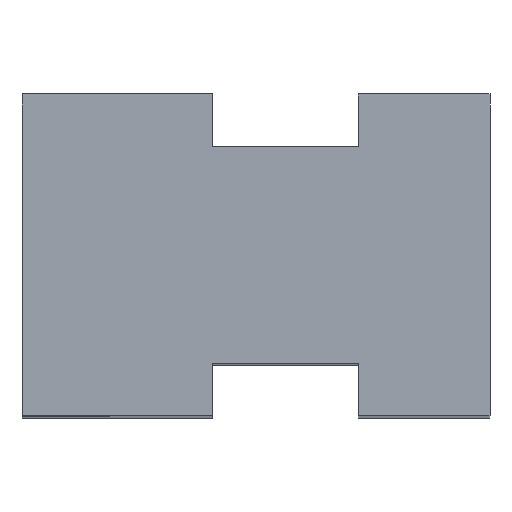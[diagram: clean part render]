
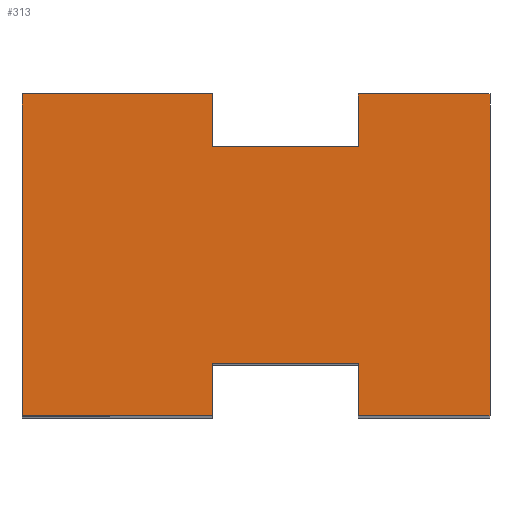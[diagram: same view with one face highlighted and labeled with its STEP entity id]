
A CAD part, top view. The second image highlights one B-rep face of the part: STEP entity #313.
In plain terms, the highlighted planar face has unit normal (0, 0, 1) as drawn and (-1, 0, 0) by its records, which use the part's own axes.
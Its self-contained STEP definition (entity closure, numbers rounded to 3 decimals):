
#76=CARTESIAN_POINT('Vertex',(0.,-7.4,0.)) ;
#81=CARTESIAN_POINT('Line Origine',(0.,-7.4,-5.)) ;
#85=CARTESIAN_POINT('Vertex',(0.,-7.4,-10.)) ;
#207=CARTESIAN_POINT('Line Origine',(0.,-9.2,-10.)) ;
#211=CARTESIAN_POINT('Vertex',(0.,-11.,-10.)) ;
#226=CARTESIAN_POINT('Axis2P3D Location',(0.,0.,0.)) ;
#231=CARTESIAN_POINT('Line Origine',(0.,-9.2,0.)) ;
#235=CARTESIAN_POINT('Vertex',(0.,-11.,0.)) ;
#238=CARTESIAN_POINT('Line Origine',(0.,-11.,6.5)) ;
#242=CARTESIAN_POINT('Vertex',(0.,-11.,13.)) ;
#245=CARTESIAN_POINT('Line Origine',(0.,0.,13.)) ;
#249=CARTESIAN_POINT('Vertex',(0.,11.,13.)) ;
#252=CARTESIAN_POINT('Line Origine',(0.,11.,6.5)) ;
#256=CARTESIAN_POINT('Vertex',(0.,11.,0.)) ;
#259=CARTESIAN_POINT('Line Origine',(0.,9.2,0.)) ;
#263=CARTESIAN_POINT('Vertex',(0.,7.4,0.)) ;
#266=CARTESIAN_POINT('Line Origine',(0.,7.4,-5.)) ;
#270=CARTESIAN_POINT('Vertex',(0.,7.4,-10.)) ;
#273=CARTESIAN_POINT('Line Origine',(0.,9.2,-10.)) ;
#277=CARTESIAN_POINT('Vertex',(0.,11.,-10.)) ;
#280=CARTESIAN_POINT('Line Origine',(0.,11.,-14.5)) ;
#284=CARTESIAN_POINT('Vertex',(0.,11.,-19.)) ;
#287=CARTESIAN_POINT('Line Origine',(0.,0.,-19.)) ;
#291=CARTESIAN_POINT('Vertex',(0.,-11.,-19.)) ;
#294=CARTESIAN_POINT('Line Origine',(0.,-11.,-14.5)) ;
#82=DIRECTION('Vector Direction',(0.,0.,1.)) ;
#208=DIRECTION('Vector Direction',(0.,1.,0.)) ;
#227=DIRECTION('Axis2P3D Direction',(1.,0.,0.)) ;
#228=DIRECTION('Axis2P3D XDirection',(0.,1.,0.)) ;
#232=DIRECTION('Vector Direction',(0.,-1.,0.)) ;
#239=DIRECTION('Vector Direction',(0.,0.,1.)) ;
#246=DIRECTION('Vector Direction',(0.,1.,0.)) ;
#253=DIRECTION('Vector Direction',(0.,0.,-1.)) ;
#260=DIRECTION('Vector Direction',(0.,-1.,0.)) ;
#267=DIRECTION('Vector Direction',(0.,0.,-1.)) ;
#274=DIRECTION('Vector Direction',(0.,1.,0.)) ;
#281=DIRECTION('Vector Direction',(0.,0.,-1.)) ;
#288=DIRECTION('Vector Direction',(0.,-1.,0.)) ;
#295=DIRECTION('Vector Direction',(0.,0.,1.)) ;
#229=AXIS2_PLACEMENT_3D('Plane Axis2P3D',#226,#227,#228) ;
#300=ORIENTED_EDGE('',*,*,#237,.F.) ;
#301=ORIENTED_EDGE('',*,*,#244,.F.) ;
#302=ORIENTED_EDGE('',*,*,#251,.F.) ;
#303=ORIENTED_EDGE('',*,*,#258,.F.) ;
#304=ORIENTED_EDGE('',*,*,#265,.F.) ;
#305=ORIENTED_EDGE('',*,*,#272,.F.) ;
#306=ORIENTED_EDGE('',*,*,#279,.F.) ;
#307=ORIENTED_EDGE('',*,*,#286,.F.) ;
#308=ORIENTED_EDGE('',*,*,#293,.F.) ;
#309=ORIENTED_EDGE('',*,*,#298,.F.) ;
#310=ORIENTED_EDGE('',*,*,#213,.F.) ;
#311=ORIENTED_EDGE('',*,*,#87,.F.) ;
#83=VECTOR('Line Direction',#82,1.) ;
#209=VECTOR('Line Direction',#208,1.) ;
#233=VECTOR('Line Direction',#232,1.) ;
#240=VECTOR('Line Direction',#239,1.) ;
#247=VECTOR('Line Direction',#246,1.) ;
#254=VECTOR('Line Direction',#253,1.) ;
#261=VECTOR('Line Direction',#260,1.) ;
#268=VECTOR('Line Direction',#267,1.) ;
#275=VECTOR('Line Direction',#274,1.) ;
#282=VECTOR('Line Direction',#281,1.) ;
#289=VECTOR('Line Direction',#288,1.) ;
#296=VECTOR('Line Direction',#295,1.) ;
#313=ADVANCED_FACE('',(#312),#230,.F.) ;
#87=EDGE_CURVE('',#77,#86,#84,.F.) ;
#213=EDGE_CURVE('',#86,#212,#210,.F.) ;
#237=EDGE_CURVE('',#236,#77,#234,.F.) ;
#244=EDGE_CURVE('',#243,#236,#241,.F.) ;
#251=EDGE_CURVE('',#250,#243,#248,.F.) ;
#258=EDGE_CURVE('',#257,#250,#255,.F.) ;
#265=EDGE_CURVE('',#264,#257,#262,.F.) ;
#272=EDGE_CURVE('',#271,#264,#269,.F.) ;
#279=EDGE_CURVE('',#278,#271,#276,.F.) ;
#286=EDGE_CURVE('',#285,#278,#283,.F.) ;
#293=EDGE_CURVE('',#292,#285,#290,.F.) ;
#298=EDGE_CURVE('',#212,#292,#297,.F.) ;
#299=EDGE_LOOP('',(#300,#301,#302,#303,#304,#305,#306,#307,#308,#309,#310,#311)) ;
#312=FACE_OUTER_BOUND('',#299,.T.) ;
#84=LINE('Line',#81,#83) ;
#210=LINE('Line',#207,#209) ;
#234=LINE('Line',#231,#233) ;
#241=LINE('Line',#238,#240) ;
#248=LINE('Line',#245,#247) ;
#255=LINE('Line',#252,#254) ;
#262=LINE('Line',#259,#261) ;
#269=LINE('Line',#266,#268) ;
#276=LINE('Line',#273,#275) ;
#283=LINE('Line',#280,#282) ;
#290=LINE('Line',#287,#289) ;
#297=LINE('Line',#294,#296) ;
#230=PLANE('Plane',#229) ;
#77=VERTEX_POINT('',#76) ;
#86=VERTEX_POINT('',#85) ;
#212=VERTEX_POINT('',#211) ;
#236=VERTEX_POINT('',#235) ;
#243=VERTEX_POINT('',#242) ;
#250=VERTEX_POINT('',#249) ;
#257=VERTEX_POINT('',#256) ;
#264=VERTEX_POINT('',#263) ;
#271=VERTEX_POINT('',#270) ;
#278=VERTEX_POINT('',#277) ;
#285=VERTEX_POINT('',#284) ;
#292=VERTEX_POINT('',#291) ;
